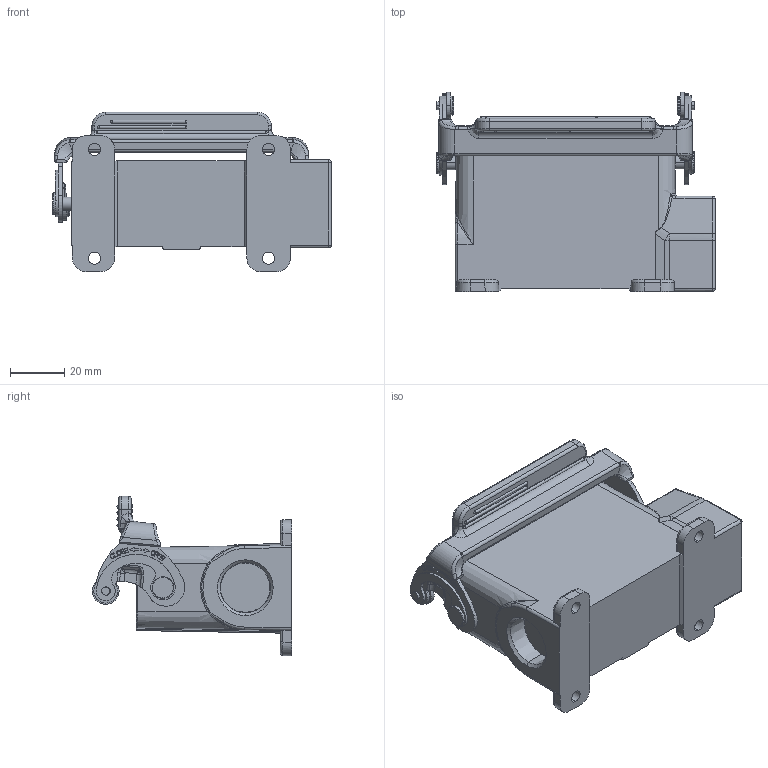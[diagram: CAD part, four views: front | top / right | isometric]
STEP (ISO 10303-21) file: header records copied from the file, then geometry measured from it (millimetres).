
FILE_DESCRIPTION((''),'2;1');
FILE_NAME('H16A-SGR-M25','2022-07-11T',('PC'),(''),'PRO/ENGINEER BY PARAMETRIC TECHNOLOGY CORPORATION, 2009220','PRO/ENGINEER BY PARAMETRIC TECHNOLOGY CORPORATION, 2009220','');
FILE_SCHEMA(('CONFIG_CONTROL_DESIGN'));
Length unit declared in the file: millimetre
Products named in the file (1): H16A-SGR-M25
Bounding box: 102.35 x 73.2 x 58.61 mm (x, y, z)
Volume: 72485.6 mm3; surface area: 39912.6 mm2
Topology: 1 solids, 13 shells, 1038 faces, 2858 edges, 1869 vertices
Faces by surface type: plane 367, cylinder 294, extrusion 139, bspline 116, cone 49, torus 47, sphere 26
Entity records: 41003 total; most frequent: CARTESIAN_POINT 15784, ORIENTED_EDGE 5644, DIRECTION 4617, EDGE_CURVE 2822, VERTEX_POINT 1868, AXIS2_PLACEMENT_3D 1611, VECTOR 1395, LINE 1256
